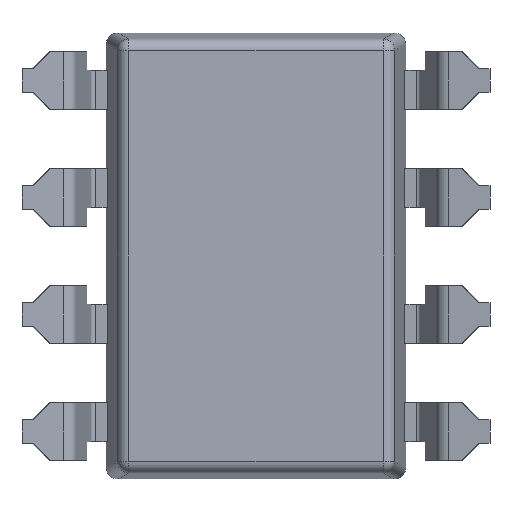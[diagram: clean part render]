
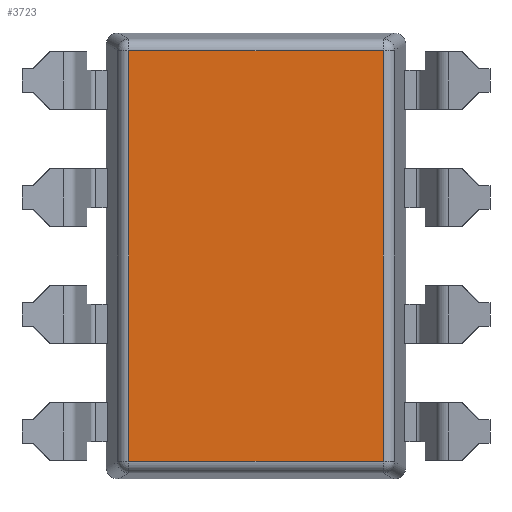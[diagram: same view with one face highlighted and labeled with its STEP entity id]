
A CAD part, front view. The second image highlights one B-rep face of the part: STEP entity #3723.
In plain terms, the highlighted planar face has unit normal (0, -1, 0).
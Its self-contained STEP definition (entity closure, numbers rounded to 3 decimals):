
#194=FACE_OUTER_BOUND('',#391,.T.);
#391=EDGE_LOOP('',(#2823,#2824,#2825,#2826));
#936=LINE('',#5880,#1379);
#937=LINE('',#5882,#1380);
#938=LINE('',#5884,#1381);
#939=LINE('',#5885,#1382);
#1379=VECTOR('',#4631,5.525);
#1380=VECTOR('',#4632,8.919);
#1381=VECTOR('',#4633,5.525);
#1382=VECTOR('',#4634,8.919);
#1796=VERTEX_POINT('',#5878);
#1797=VERTEX_POINT('',#5879);
#1798=VERTEX_POINT('',#5881);
#1799=VERTEX_POINT('',#5883);
#2210=EDGE_CURVE('',#1796,#1797,#936,.T.);
#2211=EDGE_CURVE('',#1797,#1798,#937,.T.);
#2212=EDGE_CURVE('',#1798,#1799,#938,.T.);
#2213=EDGE_CURVE('',#1799,#1796,#939,.T.);
#2823=ORIENTED_EDGE('',*,*,#2210,.T.);
#2824=ORIENTED_EDGE('',*,*,#2211,.T.);
#2825=ORIENTED_EDGE('',*,*,#2212,.T.);
#2826=ORIENTED_EDGE('',*,*,#2213,.T.);
#3591=PLANE('',#3950);
#3723=ADVANCED_FACE('',(#194),#3591,.T.);
#3950=AXIS2_PLACEMENT_3D('',#5877,#4629,#4630);
#4629=DIRECTION('center_axis',(0.,-1.,0.));
#4630=DIRECTION('ref_axis',(0.,0.,-1.));
#4631=DIRECTION('',(1.,0.,0.));
#4632=DIRECTION('',(0.,0.,1.));
#4633=DIRECTION('',(-1.,0.,0.));
#4634=DIRECTION('',(0.,0.,-1.));
#5877=CARTESIAN_POINT('Origin',(0.,-1.73,0.));
#5878=CARTESIAN_POINT('',(-2.762,-1.73,-4.46));
#5879=CARTESIAN_POINT('',(2.762,-1.73,-4.46));
#5880=CARTESIAN_POINT('',(2.726,-1.73,-4.46));
#5881=CARTESIAN_POINT('',(2.762,-1.73,4.46));
#5882=CARTESIAN_POINT('',(2.762,-1.73,4.441));
#5883=CARTESIAN_POINT('',(-2.762,-1.73,4.46));
#5884=CARTESIAN_POINT('',(-2.726,-1.73,4.46));
#5885=CARTESIAN_POINT('',(-2.762,-1.73,0.));
